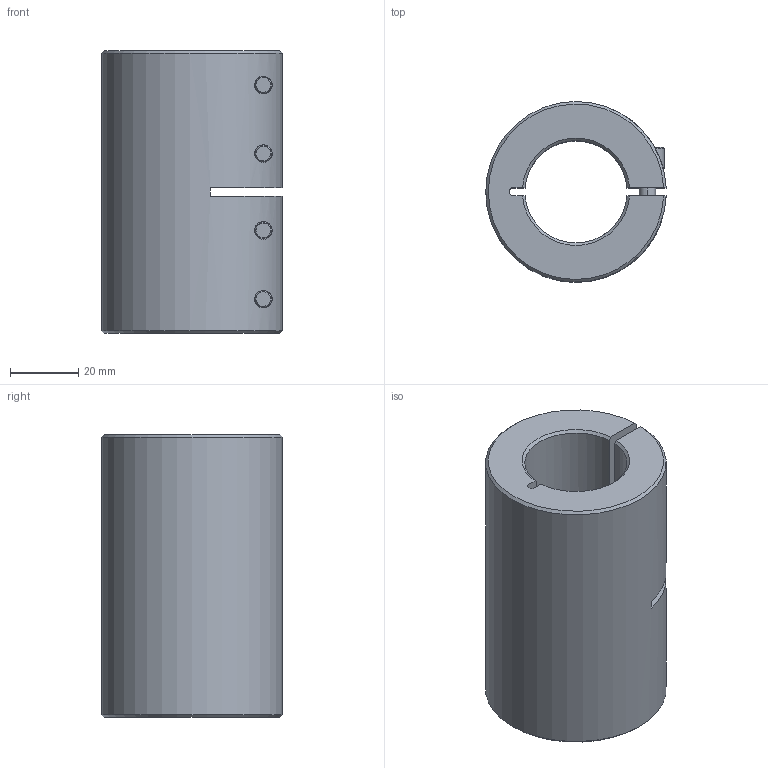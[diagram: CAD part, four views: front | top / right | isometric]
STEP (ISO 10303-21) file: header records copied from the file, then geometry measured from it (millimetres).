
FILE_DESCRIPTION((''),'2;1');
FILE_NAME('MCLX-30-30-F','2016-09-07T',('SYSTEM'),(''),'PRO/ENGINEER BY PARAMETRIC TECHNOLOGY CORPORATION, 2015110','PRO/ENGINEER BY PARAMETRIC TECHNOLOGY CORPORATION, 2015110','');
FILE_SCHEMA(('AUTOMOTIVE_DESIGN { 1 0 10303 214 1 1 1 1 }'));
Length unit declared in the file: inch
Products named in the file (1): MCLX-30-30-F
Bounding box: 52.97 x 52.99 x 83 mm (x, y, z)
Volume: 117608.2 mm3; surface area: 31549.3 mm2
Topology: 1 solids, 1 shells, 126 faces, 301 edges, 193 vertices
Faces by surface type: plane 65, cylinder 39, cone 22
Entity records: 4851 total; most frequent: CARTESIAN_POINT 913, DIRECTION 634, ORIENTED_EDGE 602, EDGE_CURVE 301, AXIS2_PLACEMENT_3D 231, VERTEX_POINT 193, VECTOR 172, LINE 172
